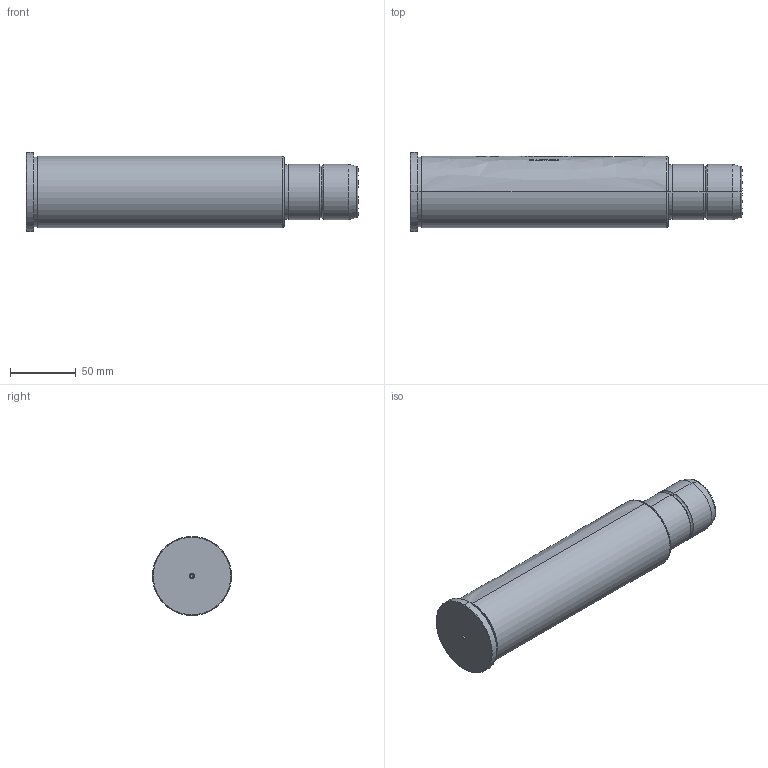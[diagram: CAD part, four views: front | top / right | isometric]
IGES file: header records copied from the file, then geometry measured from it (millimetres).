
Start section: SolidWorks IGES file using analytic representation for surfaces
Global section: file name: D:\TRIVECTOR\2026\08_Agosto\CM - COLUNA PRINCIPAL E31 (CATÁLOGO)\CM42196056.IGS; native system: SolidWorks 2024; preprocessor: SolidWorks 2024; author: Usuario; date: 260901.104732; units: millimetre
Bounding box: 252 x 60 x 60 mm (x, y, z)
Surface area: 46518.2 mm2 (no closed solid volume)
Topology: 0 solids, 0 shells, 466 faces, 5639 edges, 5635 vertices
Faces by surface type: bspline 389, revolution 77
